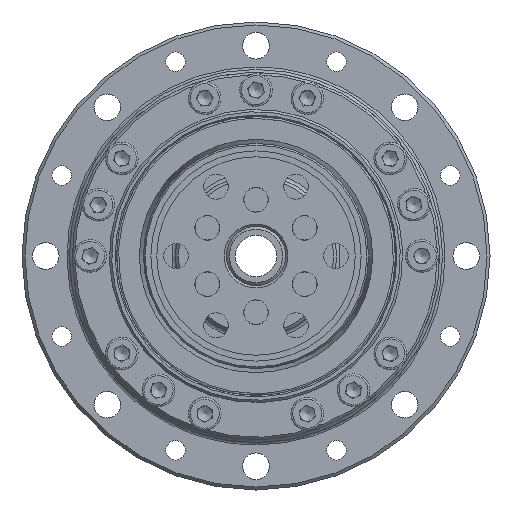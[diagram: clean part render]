
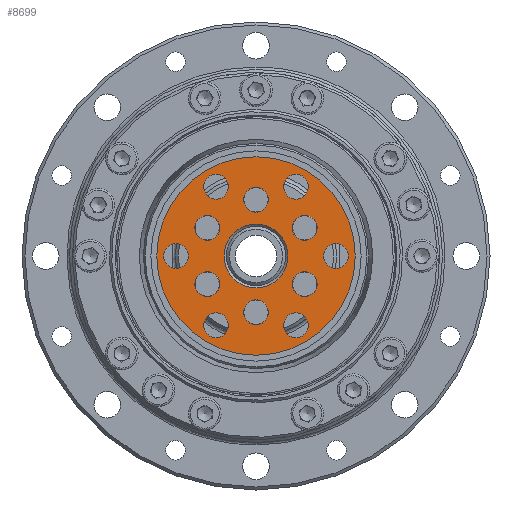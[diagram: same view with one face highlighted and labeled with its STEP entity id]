
A CAD part, left-side view. The second image highlights one B-rep face of the part: STEP entity #8699.
In plain terms, the highlighted planar face has unit normal (-1, 0, 0).
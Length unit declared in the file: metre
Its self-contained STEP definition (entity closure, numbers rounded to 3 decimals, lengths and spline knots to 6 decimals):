
#128 = AXIS2_PLACEMENT_3D ( 'NONE', #30334, #6704, #27562 ) ;
#307 = ORIENTED_EDGE ( 'NONE', *, *, #22588, .T. ) ;
#697 = DIRECTION ( 'NONE',  ( 0., 0., 1. ) ) ;
#1021 = FACE_BOUND ( 'NONE', #9828, .T. ) ;
#1261 = EDGE_CURVE ( 'NONE', #5446, #5446, #8455, .T. ) ;
#1824 = AXIS2_PLACEMENT_3D ( 'NONE', #9972, #21268, #14634 ) ;
#1989 = CARTESIAN_POINT ( 'NONE',  ( -0.0253, 0.008227, -0.00265 ) ) ;
#2032 = CARTESIAN_POINT ( 'NONE',  ( -0.0253, -0.00675, 0.013791 ) ) ;
#2059 = CIRCLE ( 'NONE', #14885, 0.01675 ) ;
#2082 = FACE_BOUND ( 'NONE', #12359, .T. ) ;
#3279 = DIRECTION ( 'NONE',  ( 0., 0., 1. ) ) ;
#3461 = CARTESIAN_POINT ( 'NONE',  ( -0.0253, 0.00675, -0.009591 ) ) ;
#3990 = CIRCLE ( 'NONE', #9889, 0.0021 ) ;
#4406 = FACE_BOUND ( 'NONE', #26925, .T. ) ;
#4412 = CARTESIAN_POINT ( 'NONE',  ( -0.0253, 0., -0.0095 ) ) ;
#4568 = PLANE ( 'NONE',  #128 ) ;
#4612 = EDGE_CURVE ( 'NONE', #9118, #9118, #17827, .T. ) ;
#4764 = DIRECTION ( 'NONE',  ( 0., 0., 1. ) ) ;
#4770 = EDGE_CURVE ( 'NONE', #11747, #11747, #2059, .T. ) ;
#4771 = DIRECTION ( 'NONE',  ( 1., 0., 0. ) ) ;
#4819 = CARTESIAN_POINT ( 'NONE',  ( -0.0253, -0.008227, 0.00685 ) ) ;
#5306 = ORIENTED_EDGE ( 'NONE', *, *, #1261, .T. ) ;
#5430 = DIRECTION ( 'NONE',  ( -1., 0., 0. ) ) ;
#5446 = VERTEX_POINT ( 'NONE', #16886 ) ;
#5667 = CARTESIAN_POINT ( 'NONE',  ( -0.0253, -0.00675, 0.011691 ) ) ;
#6219 = VERTEX_POINT ( 'NONE', #27677 ) ;
#6322 = EDGE_CURVE ( 'NONE', #16095, #16095, #3990, .T. ) ;
#6704 = DIRECTION ( 'NONE',  ( 1., 0., 0. ) ) ;
#6919 = EDGE_LOOP ( 'NONE', ( #8088 ) ) ;
#6968 = CARTESIAN_POINT ( 'NONE',  ( -0.0253, -0.0135, 0.0021 ) ) ;
#7005 = EDGE_LOOP ( 'NONE', ( #13991 ) ) ;
#7126 = DIRECTION ( 'NONE',  ( 1., 0., 0. ) ) ;
#7384 = DIRECTION ( 'NONE',  ( 1., 0., 0. ) ) ;
#7478 = AXIS2_PLACEMENT_3D ( 'NONE', #13041, #24308, #29061 ) ;
#7745 = CARTESIAN_POINT ( 'NONE',  ( -0.0253, -0.008227, -0.00265 ) ) ;
#7833 = EDGE_LOOP ( 'NONE', ( #5306 ) ) ;
#7929 = EDGE_CURVE ( 'NONE', #19624, #19624, #12448, .T. ) ;
#8088 = ORIENTED_EDGE ( 'NONE', *, *, #22377, .T. ) ;
#8455 = CIRCLE ( 'NONE', #9444, 0.0021 ) ;
#8699 = ADVANCED_FACE ( 'NONE', ( #15694, #17553, #17855, #27265, #25088, #29879, #24494, #1021, #4406, #23551, #2082, #13829, #11334, #25857 ), #4568, .F. ) ;
#8783 = EDGE_LOOP ( 'NONE', ( #307 ) ) ;
#9118 = VERTEX_POINT ( 'NONE', #25647 ) ;
#9207 = CIRCLE ( 'NONE', #1824, 0.0021 ) ;
#9365 = CARTESIAN_POINT ( 'NONE',  ( -0.0253, -0.008227, -0.00475 ) ) ;
#9444 = AXIS2_PLACEMENT_3D ( 'NONE', #17409, #15111, #10890 ) ;
#9676 = AXIS2_PLACEMENT_3D ( 'NONE', #25974, #7126, #16575 ) ;
#9754 = ORIENTED_EDGE ( 'NONE', *, *, #11588, .T. ) ;
#9789 = EDGE_LOOP ( 'NONE', ( #18610 ) ) ;
#9828 = EDGE_LOOP ( 'NONE', ( #16583 ) ) ;
#9882 = CARTESIAN_POINT ( 'NONE',  ( -0.0253, 0.0135, 0.0021 ) ) ;
#9889 = AXIS2_PLACEMENT_3D ( 'NONE', #5667, #17558, #29274 ) ;
#9972 = CARTESIAN_POINT ( 'NONE',  ( -0.0253, -0.008227, 0.00475 ) ) ;
#10071 = ORIENTED_EDGE ( 'NONE', *, *, #13505, .T. ) ;
#10190 = VERTEX_POINT ( 'NONE', #9882 ) ;
#10203 = AXIS2_PLACEMENT_3D ( 'NONE', #30386, #4771, #25768 ) ;
#10294 = ORIENTED_EDGE ( 'NONE', *, *, #19128, .T. ) ;
#10890 = DIRECTION ( 'NONE',  ( 0., 0., 1. ) ) ;
#10971 = CARTESIAN_POINT ( 'NONE',  ( -0.0253, 0., 0. ) ) ;
#11046 = DIRECTION ( 'NONE',  ( 1., 0., 0. ) ) ;
#11216 = EDGE_LOOP ( 'NONE', ( #28241 ) ) ;
#11319 = ORIENTED_EDGE ( 'NONE', *, *, #4612, .F. ) ;
#11334 = FACE_BOUND ( 'NONE', #6919, .T. ) ;
#11588 = EDGE_CURVE ( 'NONE', #20994, #20994, #20692, .T. ) ;
#11747 = VERTEX_POINT ( 'NONE', #30126 ) ;
#11948 = EDGE_LOOP ( 'NONE', ( #13543 ) ) ;
#12359 = EDGE_LOOP ( 'NONE', ( #10294 ) ) ;
#12448 = CIRCLE ( 'NONE', #7478, 0.0021 ) ;
#12520 = CARTESIAN_POINT ( 'NONE',  ( -0.0253, 0.008227, -0.00475 ) ) ;
#12690 = DIRECTION ( 'NONE',  ( 0., 0., 1. ) ) ;
#13041 = CARTESIAN_POINT ( 'NONE',  ( -0.0253, -0.00675, -0.011691 ) ) ;
#13119 = DIRECTION ( 'NONE',  ( 1., 0., 0. ) ) ;
#13505 = EDGE_CURVE ( 'NONE', #26062, #26062, #15365, .T. ) ;
#13543 = ORIENTED_EDGE ( 'NONE', *, *, #7929, .T. ) ;
#13829 = FACE_BOUND ( 'NONE', #30021, .T. ) ;
#13991 = ORIENTED_EDGE ( 'NONE', *, *, #21555, .T. ) ;
#14634 = DIRECTION ( 'NONE',  ( 0., 0., 1. ) ) ;
#14885 = AXIS2_PLACEMENT_3D ( 'NONE', #10971, #20102, #29498 ) ;
#15111 = DIRECTION ( 'NONE',  ( 1., 0., 0. ) ) ;
#15359 = VERTEX_POINT ( 'NONE', #22438 ) ;
#15365 = CIRCLE ( 'NONE', #27683, 0.0021 ) ;
#15694 = FACE_OUTER_BOUND ( 'NONE', #9789, .T. ) ;
#15980 = EDGE_LOOP ( 'NONE', ( #10071 ) ) ;
#16095 = VERTEX_POINT ( 'NONE', #2032 ) ;
#16575 = DIRECTION ( 'NONE',  ( 0., 0., 1. ) ) ;
#16583 = ORIENTED_EDGE ( 'NONE', *, *, #24161, .T. ) ;
#16607 = DIRECTION ( 'NONE',  ( 1., 0., 0. ) ) ;
#16886 = CARTESIAN_POINT ( 'NONE',  ( -0.0253, 0.00675, 0.013791 ) ) ;
#17020 = AXIS2_PLACEMENT_3D ( 'NONE', #9365, #18978, #4764 ) ;
#17389 = DIRECTION ( 'NONE',  ( 1., 0., 0. ) ) ;
#17409 = CARTESIAN_POINT ( 'NONE',  ( -0.0253, 0.00675, 0.011691 ) ) ;
#17553 = FACE_BOUND ( 'NONE', #21682, .T. ) ;
#17558 = DIRECTION ( 'NONE',  ( 1., 0., 0. ) ) ;
#17827 = CIRCLE ( 'NONE', #19305, 0.0054 ) ;
#17855 = FACE_BOUND ( 'NONE', #8783, .T. ) ;
#18610 = ORIENTED_EDGE ( 'NONE', *, *, #4770, .F. ) ;
#18978 = DIRECTION ( 'NONE',  ( 1., 0., 0. ) ) ;
#19034 = CIRCLE ( 'NONE', #29369, 0.0021 ) ;
#19059 = ORIENTED_EDGE ( 'NONE', *, *, #23113, .T. ) ;
#19128 = EDGE_CURVE ( 'NONE', #22122, #22122, #26872, .T. ) ;
#19305 = AXIS2_PLACEMENT_3D ( 'NONE', #26579, #5430, #12690 ) ;
#19624 = VERTEX_POINT ( 'NONE', #26723 ) ;
#20102 = DIRECTION ( 'NONE',  ( 1., 0., 0. ) ) ;
#20692 = CIRCLE ( 'NONE', #21667, 0.0021 ) ;
#20994 = VERTEX_POINT ( 'NONE', #1989 ) ;
#21268 = DIRECTION ( 'NONE',  ( 1., 0., 0. ) ) ;
#21555 = EDGE_CURVE ( 'NONE', #15359, #15359, #19034, .T. ) ;
#21667 = AXIS2_PLACEMENT_3D ( 'NONE', #12520, #7384, #3279 ) ;
#21682 = EDGE_LOOP ( 'NONE', ( #11319 ) ) ;
#21853 = DIRECTION ( 'NONE',  ( 0., 0., 1. ) ) ;
#22011 = CIRCLE ( 'NONE', #9676, 0.0021 ) ;
#22122 = VERTEX_POINT ( 'NONE', #7745 ) ;
#22377 = EDGE_CURVE ( 'NONE', #6219, #6219, #25451, .T. ) ;
#22438 = CARTESIAN_POINT ( 'NONE',  ( -0.0253, 0., -0.0074 ) ) ;
#22588 = EDGE_CURVE ( 'NONE', #22894, #22894, #22011, .T. ) ;
#22656 = CARTESIAN_POINT ( 'NONE',  ( -0.0253, 0.008227, 0.00475 ) ) ;
#22894 = VERTEX_POINT ( 'NONE', #3461 ) ;
#23113 = EDGE_CURVE ( 'NONE', #25958, #25958, #9207, .T. ) ;
#23551 = FACE_BOUND ( 'NONE', #7005, .T. ) ;
#23741 = EDGE_CURVE ( 'NONE', #27836, #27836, #25994, .T. ) ;
#24161 = EDGE_CURVE ( 'NONE', #10190, #10190, #28484, .T. ) ;
#24221 = CARTESIAN_POINT ( 'NONE',  ( -0.0253, 0.008227, 0.00685 ) ) ;
#24308 = DIRECTION ( 'NONE',  ( 1., 0., 0. ) ) ;
#24376 = EDGE_LOOP ( 'NONE', ( #30536 ) ) ;
#24486 = CARTESIAN_POINT ( 'NONE',  ( -0.0253, 0.0135, 0. ) ) ;
#24494 = FACE_BOUND ( 'NONE', #7833, .T. ) ;
#24529 = DIRECTION ( 'NONE',  ( 0., 0., 1. ) ) ;
#25088 = FACE_BOUND ( 'NONE', #24376, .T. ) ;
#25451 = CIRCLE ( 'NONE', #29388, 0.0021 ) ;
#25647 = CARTESIAN_POINT ( 'NONE',  ( -0.0253, 0., 0.0054 ) ) ;
#25768 = DIRECTION ( 'NONE',  ( 0., 0., 1. ) ) ;
#25857 = FACE_BOUND ( 'NONE', #15980, .T. ) ;
#25958 = VERTEX_POINT ( 'NONE', #4819 ) ;
#25974 = CARTESIAN_POINT ( 'NONE',  ( -0.0253, 0.00675, -0.011691 ) ) ;
#25994 = CIRCLE ( 'NONE', #10203, 0.0021 ) ;
#26062 = VERTEX_POINT ( 'NONE', #24221 ) ;
#26316 = CARTESIAN_POINT ( 'NONE',  ( -0.0253, 0., 0.0095 ) ) ;
#26579 = CARTESIAN_POINT ( 'NONE',  ( -0.0253, 0., 0. ) ) ;
#26723 = CARTESIAN_POINT ( 'NONE',  ( -0.0253, -0.00675, -0.009591 ) ) ;
#26872 = CIRCLE ( 'NONE', #17020, 0.0021 ) ;
#26925 = EDGE_LOOP ( 'NONE', ( #9754 ) ) ;
#27265 = FACE_BOUND ( 'NONE', #11948, .T. ) ;
#27498 = AXIS2_PLACEMENT_3D ( 'NONE', #24486, #17389, #21853 ) ;
#27562 = DIRECTION ( 'NONE',  ( 0., 0., -1. ) ) ;
#27677 = CARTESIAN_POINT ( 'NONE',  ( -0.0253, 0., 0.0116 ) ) ;
#27683 = AXIS2_PLACEMENT_3D ( 'NONE', #22656, #13119, #24529 ) ;
#27727 = DIRECTION ( 'NONE',  ( 0., 0., 1. ) ) ;
#27836 = VERTEX_POINT ( 'NONE', #6968 ) ;
#28241 = ORIENTED_EDGE ( 'NONE', *, *, #6322, .T. ) ;
#28484 = CIRCLE ( 'NONE', #27498, 0.0021 ) ;
#29061 = DIRECTION ( 'NONE',  ( 0., 0., 1. ) ) ;
#29274 = DIRECTION ( 'NONE',  ( 0., 0., 1. ) ) ;
#29369 = AXIS2_PLACEMENT_3D ( 'NONE', #4412, #11046, #27727 ) ;
#29388 = AXIS2_PLACEMENT_3D ( 'NONE', #26316, #16607, #697 ) ;
#29498 = DIRECTION ( 'NONE',  ( 0., 0., 1. ) ) ;
#29879 = FACE_BOUND ( 'NONE', #11216, .T. ) ;
#30021 = EDGE_LOOP ( 'NONE', ( #19059 ) ) ;
#30126 = CARTESIAN_POINT ( 'NONE',  ( -0.0253, 0., 0.01675 ) ) ;
#30334 = CARTESIAN_POINT ( 'NONE',  ( -0.0253, 0.0054, 0. ) ) ;
#30386 = CARTESIAN_POINT ( 'NONE',  ( -0.0253, -0.0135, 0. ) ) ;
#30536 = ORIENTED_EDGE ( 'NONE', *, *, #23741, .T. ) ;
